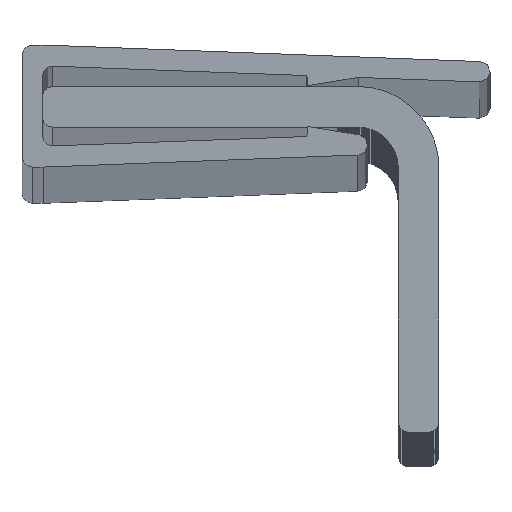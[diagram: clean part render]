
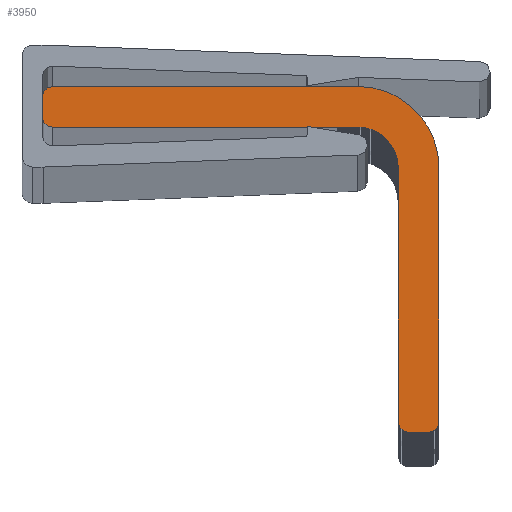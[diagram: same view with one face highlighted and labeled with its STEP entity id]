
A CAD part, top view. The second image highlights one B-rep face of the part: STEP entity #3950.
In plain terms, the highlighted planar face has unit normal (0, 0, 1).
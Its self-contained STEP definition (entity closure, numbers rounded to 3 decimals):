
#772 = DIRECTION ( 'NONE',  ( 1., 0., 0. ) ) ;
#773 = DIRECTION ( 'NONE',  ( 0., 0., -1. ) ) ;
#774 = CARTESIAN_POINT ( 'NONE',  ( 5.524, -3.497, 998.6 ) ) ;
#775 = AXIS2_PLACEMENT_3D ( 'NONE', #774, #773, #772 ) ;
#776 = CIRCLE ( 'NONE', #775, 2. ) ;
#1033 = CARTESIAN_POINT ( 'NONE',  ( 7.524, -3.497, 998.6 ) ) ;
#1034 = DIRECTION ( 'NONE',  ( 1., 0., 0. ) ) ;
#1035 = DIRECTION ( 'NONE',  ( 0., 0., 1. ) ) ;
#1036 = AXIS2_PLACEMENT_3D ( 'NONE', #1042, #1035, #1034 ) ;
#1037 = CIRCLE ( 'NONE', #1036, 4. ) ;
#1042 = CARTESIAN_POINT ( 'NONE',  ( 5.524, -3.497, 998.6 ) ) ;
#1158 = CARTESIAN_POINT ( 'NONE',  ( 9.024, -16.497, 998.6 ) ) ;
#1159 = DIRECTION ( 'NONE',  ( 1., 0., 0. ) ) ;
#1160 = VECTOR ( 'NONE', #1159, 1000. ) ;
#1161 = CARTESIAN_POINT ( 'NONE',  ( 4.524, -16.497, 998.6 ) ) ;
#1162 = LINE ( 'NONE', #1161, #1160 ) ;
#1219 = CARTESIAN_POINT ( 'NONE',  ( 8.024, -16.497, 998.6 ) ) ;
#1295 = DIRECTION ( 'NONE',  ( 0., -1., 0. ) ) ;
#1296 = VECTOR ( 'NONE', #1295, 1000. ) ;
#1297 = CARTESIAN_POINT ( 'NONE',  ( 7.524, -3.497, 998.6 ) ) ;
#1298 = LINE ( 'NONE', #1297, #1296 ) ;
#1299 = CARTESIAN_POINT ( 'NONE',  ( 7.524, -15.997, 998.6 ) ) ;
#1310 = CARTESIAN_POINT ( 'NONE',  ( 9.524, -15.997, 998.6 ) ) ;
#1311 = CARTESIAN_POINT ( 'NONE',  ( 9.524, -3.497, 998.6 ) ) ;
#1312 = DIRECTION ( 'NONE',  ( 0., -1., 0. ) ) ;
#1313 = VECTOR ( 'NONE', #1312, 1000. ) ;
#1314 = CARTESIAN_POINT ( 'NONE',  ( 9.524, -9.98, 998.6 ) ) ;
#1315 = LINE ( 'NONE', #1314, #1313 ) ;
#2594 = EDGE_CURVE ( 'NONE', #2595, #2596, #7821, .T. ) ;
#2595 = VERTEX_POINT ( 'NONE', #7817 ) ;
#2596 = VERTEX_POINT ( 'NONE', #7816 ) ;
#3448 = ORIENTED_EDGE ( 'NONE', *, *, #6065, .T. ) ;
#3937 = ORIENTED_EDGE ( 'NONE', *, *, #4065, .T. ) ;
#3944 = ORIENTED_EDGE ( 'NONE', *, *, #3945, .T. ) ;
#3945 = EDGE_CURVE ( 'NONE', #6077, #6094, #11529, .T. ) ;
#3946 = ORIENTED_EDGE ( 'NONE', *, *, #6092, .F. ) ;
#3947 = ORIENTED_EDGE ( 'NONE', *, *, #5982, .T. ) ;
#3950 = ADVANCED_FACE ( 'NONE', ( #11658 ), #11621, .T. ) ;
#3951 = EDGE_LOOP ( 'NONE', ( #3952, #4108, #4110, #4111, #3953, #3954, #3448, #3937, #4075, #3944, #3946, #3947 ) ) ;
#3952 = ORIENTED_EDGE ( 'NONE', *, *, #5045, .F. ) ;
#3953 = ORIENTED_EDGE ( 'NONE', *, *, #4764, .T. ) ;
#3954 = ORIENTED_EDGE ( 'NONE', *, *, #5929, .T. ) ;
#3972 = EDGE_CURVE ( 'NONE', #2595, #4698, #11549, .T. ) ;
#4065 = EDGE_CURVE ( 'NONE', #6063, #6071, #11793, .T. ) ;
#4075 = ORIENTED_EDGE ( 'NONE', *, *, #6076, .T. ) ;
#4108 = ORIENTED_EDGE ( 'NONE', *, *, #4109, .T. ) ;
#4109 = EDGE_CURVE ( 'NONE', #4906, #2596, #12074, .T. ) ;
#4110 = ORIENTED_EDGE ( 'NONE', *, *, #2594, .F. ) ;
#4111 = ORIENTED_EDGE ( 'NONE', *, *, #3972, .T. ) ;
#4697 = VERTEX_POINT ( 'NONE', #13851 ) ;
#4698 = VERTEX_POINT ( 'NONE', #13850 ) ;
#4764 = EDGE_CURVE ( 'NONE', #4698, #4697, #13821, .T. ) ;
#4906 = VERTEX_POINT ( 'NONE', #13985 ) ;
#4948 = VERTEX_POINT ( 'NONE', #14354 ) ;
#5045 = EDGE_CURVE ( 'NONE', #4906, #4948, #14383, .T. ) ;
#5929 = EDGE_CURVE ( 'NONE', #4697, #5984, #776, .T. ) ;
#5982 = EDGE_CURVE ( 'NONE', #6093, #4948, #1037, .T. ) ;
#5984 = VERTEX_POINT ( 'NONE', #1033 ) ;
#6063 = VERTEX_POINT ( 'NONE', #1299 ) ;
#6065 = EDGE_CURVE ( 'NONE', #5984, #6063, #1298, .T. ) ;
#6071 = VERTEX_POINT ( 'NONE', #1219 ) ;
#6076 = EDGE_CURVE ( 'NONE', #6071, #6077, #1162, .T. ) ;
#6077 = VERTEX_POINT ( 'NONE', #1158 ) ;
#6092 = EDGE_CURVE ( 'NONE', #6093, #6094, #1315, .T. ) ;
#6093 = VERTEX_POINT ( 'NONE', #1311 ) ;
#6094 = VERTEX_POINT ( 'NONE', #1310 ) ;
#7816 = CARTESIAN_POINT ( 'NONE',  ( -9.976, 0.003, 998.6 ) ) ;
#7817 = CARTESIAN_POINT ( 'NONE',  ( -9.976, -0.997, 998.6 ) ) ;
#7818 = DIRECTION ( 'NONE',  ( 0., 1., 0. ) ) ;
#7819 = VECTOR ( 'NONE', #7818, 1000. ) ;
#7820 = CARTESIAN_POINT ( 'NONE',  ( -9.976, 0.503, 998.6 ) ) ;
#7821 = LINE ( 'NONE', #7820, #7819 ) ;
#11520 = DIRECTION ( 'NONE',  ( 1., 0., 0. ) ) ;
#11521 = DIRECTION ( 'NONE',  ( 0., 0., 1. ) ) ;
#11522 = CARTESIAN_POINT ( 'NONE',  ( 9.024, -15.997, 998.6 ) ) ;
#11523 = AXIS2_PLACEMENT_3D ( 'NONE', #11522, #11521, #11520 ) ;
#11529 = CIRCLE ( 'NONE', #11523, 0.5 ) ;
#11545 = DIRECTION ( 'NONE',  ( 1., 0., 0. ) ) ;
#11546 = DIRECTION ( 'NONE',  ( 0., 0., 1. ) ) ;
#11547 = CARTESIAN_POINT ( 'NONE',  ( -9.476, -0.997, 998.6 ) ) ;
#11548 = AXIS2_PLACEMENT_3D ( 'NONE', #11547, #11546, #11545 ) ;
#11549 = CIRCLE ( 'NONE', #11548, 0.5 ) ;
#11617 = DIRECTION ( 'NONE',  ( 1., 0., 0. ) ) ;
#11618 = DIRECTION ( 'NONE',  ( 0., 0., 1. ) ) ;
#11619 = CARTESIAN_POINT ( 'NONE',  ( 4.524, -9.98, 998.6 ) ) ;
#11620 = AXIS2_PLACEMENT_3D ( 'NONE', #11619, #11618, #11617 ) ;
#11621 = PLANE ( 'NONE',  #11620 ) ;
#11658 = FACE_OUTER_BOUND ( 'NONE', #3951, .T. ) ;
#11790 = DIRECTION ( 'NONE',  ( 1., 0., 0. ) ) ;
#11791 = DIRECTION ( 'NONE',  ( 0., 0., 1. ) ) ;
#11792 = AXIS2_PLACEMENT_3D ( 'NONE', #11799, #11791, #11790 ) ;
#11793 = CIRCLE ( 'NONE', #11792, 0.5 ) ;
#11799 = CARTESIAN_POINT ( 'NONE',  ( 8.024, -15.997, 998.6 ) ) ;
#12070 = DIRECTION ( 'NONE',  ( 1., 0., 0. ) ) ;
#12071 = DIRECTION ( 'NONE',  ( 0., 0., 1. ) ) ;
#12072 = CARTESIAN_POINT ( 'NONE',  ( -9.476, 0.003, 998.6 ) ) ;
#12073 = AXIS2_PLACEMENT_3D ( 'NONE', #12072, #12071, #12070 ) ;
#12074 = CIRCLE ( 'NONE', #12073, 0.5 ) ;
#13818 = DIRECTION ( 'NONE',  ( 1., 0., 0. ) ) ;
#13819 = VECTOR ( 'NONE', #13818, 1000. ) ;
#13820 = CARTESIAN_POINT ( 'NONE',  ( -9.976, -1.497, 998.6 ) ) ;
#13821 = LINE ( 'NONE', #13820, #13819 ) ;
#13850 = CARTESIAN_POINT ( 'NONE',  ( -9.476, -1.497, 998.6 ) ) ;
#13851 = CARTESIAN_POINT ( 'NONE',  ( 5.524, -1.497, 998.6 ) ) ;
#13985 = CARTESIAN_POINT ( 'NONE',  ( -9.476, 0.503, 998.6 ) ) ;
#14354 = CARTESIAN_POINT ( 'NONE',  ( 5.524, 0.503, 998.6 ) ) ;
#14380 = DIRECTION ( 'NONE',  ( 1., 0., 0. ) ) ;
#14381 = VECTOR ( 'NONE', #14380, 1000. ) ;
#14382 = CARTESIAN_POINT ( 'NONE',  ( 4.524, 0.503, 998.6 ) ) ;
#14383 = LINE ( 'NONE', #14382, #14381 ) ;
